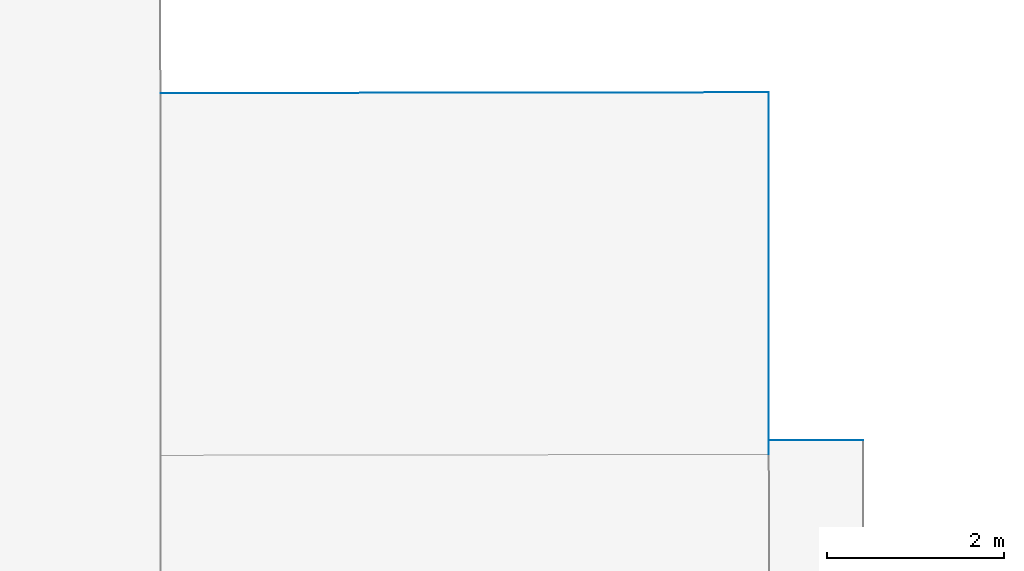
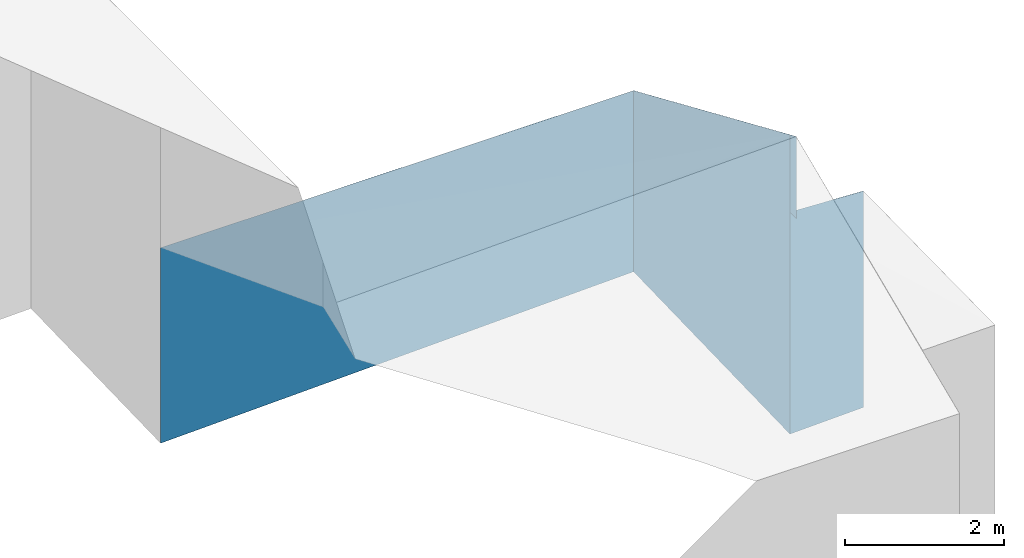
# Not in any storey, part 8 of 59: 4 walls.
"""IFC4 building model written with IfcOpenShell, lengths in metres."""

import ifcopenshell
import ifcopenshell.guid

model = None  # the IFC model being written
_history = None  # IfcOwnerHistory: only IFC2X3 demands one
_inside = {}  # id of a spatial element -> (the spatial element, [elements in it])
_under = {}  # id of a project, library or spatial element -> (it, [spatial elements below it])
_declared = {}  # id of a project -> (the project, [libraries it declares])
_typed = {}  # id of a type object -> (the type object, [elements of that type])
_made_of = {}  # id of a material, layer set ... -> (it, [elements and type objects made of it])


def new_model(schema):
    """Start an empty IFC model of exactly this schema.

    Asked for "IFC4X3", IfcOpenShell would pick the latest addendum, in which some entities
    have other attributes; the version numbers below select the first issue.
    IFC2X3 requires an IfcOwnerHistory on every rooted entity: one is made here for all.
    """
    global model, _history
    if schema == "IFC4X3":
        model = ifcopenshell.file(schema_version=(4, 3, 0, 0))
    else:
        model = ifcopenshell.file(schema=schema)
    _inside.clear()
    _under.clear()
    _declared.clear()
    _typed.clear()
    _made_of.clear()
    _history = None
    if model.schema == "IFC2X3":
        org = make("IfcOrganization", Name="unknown")
        user = make(
            "IfcPersonAndOrganization",
            ThePerson=make("IfcPerson", FamilyName="unknown"),
            TheOrganization=org,
        )
        app = make(
            "IfcApplication",
            ApplicationDeveloper=org,
            Version="unknown",
            ApplicationFullName="unknown",
            ApplicationIdentifier="unknown",
        )
        _history = make(
            "IfcOwnerHistory",
            OwningUser=user,
            OwningApplication=app,
            ChangeAction="ADDED",
            CreationDate=0,
        )
    return model


def make(cls, **values):
    """One entity of the class cls with the attributes given. An attribute that is None is left unset."""
    return model.create_entity(
        cls, **{name: value for name, value in values.items() if value is not None}
    )


def entity(cls, *values):
    """Any entity or typed value of the class cls, its attributes in the order of the schema. None: left unset."""
    e = model.create_entity(cls)
    for i, value in enumerate(values):
        if value is not None:
            e[i] = value
    return e


def rooted(cls, **values):
    """An entity with a GlobalId (a new one), such as an element, a storey or a relation."""
    return make(cls, GlobalId=ifcopenshell.guid.new(), OwnerHistory=_history, **values)


def si_unit(unit_type, name, prefix=None):
    """IfcSIUnit, for example si_unit("LENGTHUNIT", "METRE", prefix="MILLI")."""
    return make("IfcSIUnit", UnitType=unit_type, Prefix=prefix, Name=name)


def converted_unit(unit_type, name, factor, base, dimensions=None, offset=None):
    """IfcConversionBasedUnit, such as the inch: factor (a typed value) times the base unit."""
    return make(
        "IfcConversionBasedUnit"
        if offset is None
        else "IfcConversionBasedUnitWithOffset",
        ConversionOffset=offset,
        Dimensions=None
        if dimensions is None
        else entity("IfcDimensionalExponents", *dimensions),
        UnitType=unit_type,
        Name=name,
        ConversionFactor=make(
            "IfcMeasureWithUnit", ValueComponent=factor, UnitComponent=base
        ),
    )


def assignment(units):
    """IfcUnitAssignment: the units of a project."""
    return None if units is None else make("IfcUnitAssignment", Units=units)


def point(xyz):
    """IfcCartesianPoint."""
    return None if xyz is None else make("IfcCartesianPoint", Coordinates=xyz)


def direction(xyz):
    """IfcDirection."""
    return None if xyz is None else make("IfcDirection", DirectionRatios=xyz)


def frame(location, z_axis=None, x_axis=None):
    """IfcAxis2Placement3D, a coordinate frame: its origin and axes. An axis left out is left unset."""
    return make(
        "IfcAxis2Placement3D",
        Location=point(location),
        Axis=direction(z_axis),
        RefDirection=direction(x_axis),
    )


def origin():
    """The frame at (0, 0, 0) with its axes left unset."""
    return frame((0.0, 0.0, 0.0))


def place(relative_to, where):
    """IfcLocalPlacement: puts the frame where relative to a parent placement (None: the world)."""
    return make(
        "IfcLocalPlacement", PlacementRelTo=relative_to, RelativePlacement=where
    )


def context(
    kind, dimensions, precision=None, world=None, true_north=None, identifier=None
):
    """IfcGeometricRepresentationContext, for example the 3D "Model" context."""
    return make(
        "IfcGeometricRepresentationContext",
        ContextIdentifier=identifier,
        ContextType=kind,
        CoordinateSpaceDimension=dimensions,
        Precision=precision,
        WorldCoordinateSystem=world,
        TrueNorth=true_north,
    )


def subcontext(parent, identifier, kind, view, scale=None):
    """IfcGeometricRepresentationSubContext, for example "Body" below "Model"."""
    return make(
        "IfcGeometricRepresentationSubContext",
        ContextIdentifier=identifier,
        ContextType=kind,
        ParentContext=parent,
        TargetScale=scale,
        TargetView=view,
    )


def project(units=None, contexts=None):
    """IfcProject with its units and contexts."""
    return rooted(
        "IfcProject",
        Name="project",
        RepresentationContexts=contexts,
        UnitsInContext=assignment(units),
    )


def spatial(cls, under=None, at=None, **own):
    """A site, building, storey or space (cls), placed at a placement, below another one or the project."""
    s = rooted(cls, ObjectPlacement=at, **own)
    if under is not None:
        _under.setdefault(under.id(), (under, []))[1].append(s)
    return s


def faces_of(points, faces, orient=None, outer=None):
    """IfcFace entities. A face is a list of loops; a loop is a list of indices into points, from 0.

    orient and outer hold one flag for each loop. By default every Orientation is true, the
    first loop of a face is its IfcFaceOuterBound and the others are IfcFaceBound.
    """
    made = []
    for i, loops in enumerate(faces):
        bounds = []
        for j, loop in enumerate(loops):
            is_outer = j == 0 if outer is None else outer[i][j]
            bounds.append(
                make(
                    "IfcFaceOuterBound" if is_outer else "IfcFaceBound",
                    Bound=make("IfcPolyLoop", Polygon=[points[k] for k in loop]),
                    Orientation=True if orient is None else orient[i][j],
                )
            )
        made.append(make("IfcFace", Bounds=bounds))
    return made


def face_set(faces, orient=None, outer=None):
    """The faces of one IfcConnectedFaceSet. surface_model builds it on its shared points."""
    return ("IfcConnectedFaceSet", faces, orient, outer)


def surface_model(cls, points, shells):
    """IfcFaceBasedSurfaceModel or IfcShellBasedSurfaceModel (cls): surfaces that need not close."""
    shared = [point(p) for p in points]
    made = [make(c, CfsFaces=faces_of(shared, fs, o, b)) for c, fs, o, b in shells]
    if cls == "IfcFaceBasedSurfaceModel":
        return make(cls, FbsmFaces=made)
    return make(cls, SbsmBoundary=made)


def shape(context_of_items, identifier, shape_type, items):
    """IfcShapeRepresentation: the items that make up one representation, for example the "Body"."""
    return make(
        "IfcShapeRepresentation",
        ContextOfItems=context_of_items,
        RepresentationIdentifier=identifier,
        RepresentationType=shape_type,
        Items=items,
    )


def made_of(thing, what):
    """Note that an element or type object is made of a material, layer set ...; save() writes the relation."""
    if what is not None:
        _made_of.setdefault(what.id(), (what, []))[1].append(thing)
    return thing


def element(
    cls,
    number,
    at=None,
    inside=None,
    cuts=None,
    type_object=None,
    material=None,
    context=None,
    identifier="Body",
    shape_type=None,
    held_by="IfcProductDefinitionShape",
    body=None,
    shapes=None,
    **own,
):
    """One element of the class cls, such as IfcWall. Its Tag is "e" and its number.

    at: its placement. inside: the storey or other place that contains it. cuts: it is an
    opening in that element (IfcRelVoidsElement). A single representation is given by context,
    identifier, shape_type and body (its items); several are given by shapes. held_by: the class
    of the entity that holds the representations. save() writes the other relations.
    """
    e = rooted(cls, Tag="e%d" % number, ObjectPlacement=at, **own)
    if body is not None:
        shapes = [shape(context, identifier, shape_type, body)]
    if shapes is not None:
        e.Representation = make(held_by, Representations=shapes)
    if inside is not None:
        _inside.setdefault(inside.id(), (inside, []))[1].append(e)
    if cuts is not None:
        rooted(
            "IfcRelVoidsElement", RelatingBuildingElement=cuts, RelatedOpeningElement=e
        )
    if type_object is not None:
        _typed.setdefault(type_object.id(), (type_object, []))[1].append(e)
    return made_of(e, material)


def aggregate(whole, parts):
    """IfcRelAggregates: a whole, such as a stair, and the parts it consists of."""
    return rooted("IfcRelAggregates", RelatingObject=whole, RelatedObjects=parts)


def save(model, path):
    """Write the relations noted so far, then the file.

    IfcRelAggregates (storeys below a building ...), IfcRelContainedInSpatialStructure (elements
    in a storey), IfcRelDefinesByType, IfcRelAssociatesMaterial and IfcRelDeclares: one each for
    every whole, place, type object, material and project.
    """
    for whole, parts in _under.values():
        aggregate(whole, parts)
    for where, things in _inside.values():
        rooted(
            "IfcRelContainedInSpatialStructure",
            RelatedElements=things,
            RelatingStructure=where,
        )
    for kind, things in _typed.values():
        rooted("IfcRelDefinesByType", RelatedObjects=things, RelatingType=kind)
    for what, things in _made_of.values():
        rooted("IfcRelAssociatesMaterial", RelatedObjects=things, RelatingMaterial=what)
    for by, libraries in _declared.values():
        rooted("IfcRelDeclares", RelatingContext=by, RelatedDefinitions=libraries)
    model.write(path)


model = new_model("IFC4")

# Units and contexts
model_context = context("Model", 3, precision=1e-05, world=origin())
body_context = subcontext(model_context, "Body", "Model", "MODEL_VIEW")
ifc_project = project(units=[converted_unit("PLANEANGLEUNIT", "DEGREE", entity("IfcRatioMeasure", 0.0174532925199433), si_unit("PLANEANGLEUNIT", "RADIAN"), dimensions=[0, 0, 0, 0, 0, 0, 0]), si_unit("AREAUNIT", "SQUARE_METRE"), si_unit("LENGTHUNIT", "METRE")], contexts=[model_context])

# Site, building
site_placement = place(None, origin())
site = spatial("IfcSite", under=ifc_project, at=site_placement, Name="_site")
building_placement = place(site_placement, origin())
building = spatial("IfcBuilding", under=site, at=building_placement, Name="_building")

# Walls
wall_1_placement = place(building_placement, origin())
element("IfcWall", 1, at=wall_1_placement, inside=building, Name="Wall", PredefinedType="NOTDEFINED", context=body_context, shape_type="SurfaceModel", body=[
    surface_model("IfcFaceBasedSurfaceModel", [(84.93, 99.49, 217.02), (84.93, 99.33, 217.09), (84.93, 99.33, 215.824), (84.93, 99.49, 215.83)], [face_set([[[0, 1, 2, 3]]])]),
])
wall_2_placement = place(building_placement, origin())
element("IfcWall", 2, at=wall_2_placement, inside=building, Name="Wall", PredefinedType="NOTDEFINED", context=body_context, shape_type="SurfaceModel", body=[
    surface_model("IfcFaceBasedSurfaceModel", [(84.93, 103.43, 215.31), (84.93, 99.49, 217.02), (84.93, 99.49, 212.412), (84.93, 103.43, 212.522)], [face_set([[[0, 1, 2, 3]]])]),
])
wall_3_placement = place(building_placement, origin())
element("IfcWall", 3, at=wall_3_placement, inside=building, Name="Wall", PredefinedType="NOTDEFINED", context=body_context, shape_type="SurfaceModel", body=[
    surface_model("IfcFaceBasedSurfaceModel", [(84.93, 99.49, 215.83), (86.0, 99.49, 215.78), (86.0, 99.49, 212.449), (84.93, 99.49, 212.412)], [face_set([[[0, 1, 2, 3]]])]),
])
wall_4_placement = place(building_placement, origin())
element("IfcWall", 4, at=wall_4_placement, inside=building, Name="Wall", PredefinedType="NOTDEFINED", context=body_context, shape_type="SurfaceModel", body=[
    surface_model("IfcFaceBasedSurfaceModel", [(78.04, 103.42, 215.31), (84.93, 103.43, 215.31), (84.93, 103.43, 212.522), (78.04, 103.42, 212.301)], [face_set([[[0, 1, 2, 3]]])]),
])

save(model, "model.ifc")
